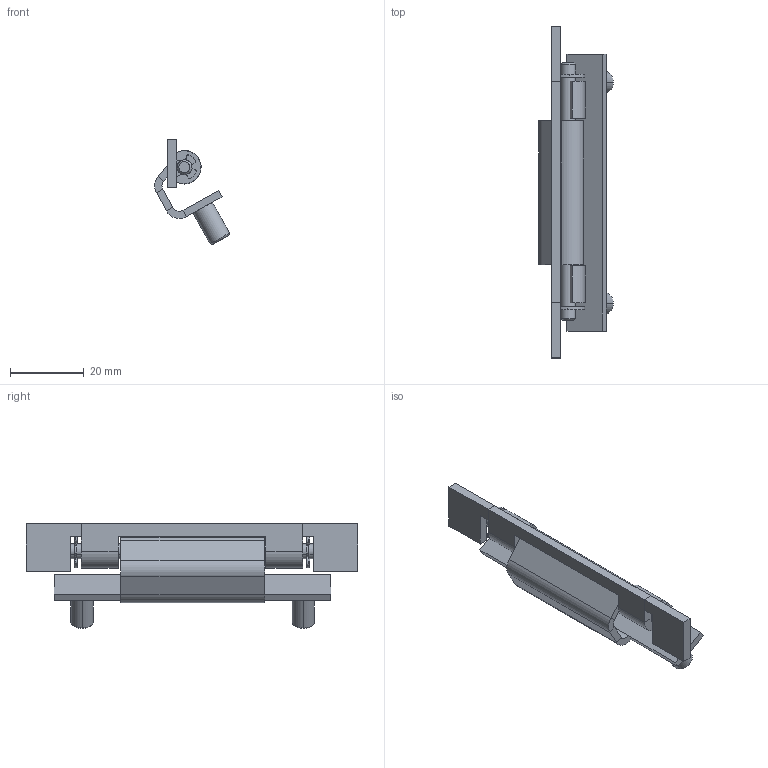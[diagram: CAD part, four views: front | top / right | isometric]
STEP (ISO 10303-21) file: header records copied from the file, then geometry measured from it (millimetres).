
FILE_DESCRIPTION (( 'STEP AP203' ), '1' );
FILE_NAME ('ST47.STEP', '2007-02-15T19:02:28', ( 'SlawekZ' ), ( 'RST' ), 'SwSTEP 2.0', 'SolidWorks 2004231', '' );
FILE_SCHEMA (( 'CONFIG_CONTROL_DESIGN' ));
Length unit declared in the file: millimetre
Products named in the file (6): Zabezpieczenie_Domyœlna; ZAWIAS 9618_Domyœlna; ZAWIAS NO 9618 STOPA_Domyœlna; ZAWIAS NO 9618 UCHO_Domyœlna; SWORZEN_Domyœlna; ST47
Assembly tree (6 placements, depth 3):
  ST47
    Zabezpieczenie_Domyœlna  x2
    ZAWIAS 9618_Domyœlna
      ZAWIAS NO 9618 UCHO_Domyœlna
      ZAWIAS NO 9618 STOPA_Domyœlna
      SWORZEN_Domyœlna
Bounding box: 20.29 x 90 x 28.42 mm (x, y, z)
Volume: 7848.8 mm3; surface area: 8741.6 mm2
Topology: 9 solids, 9 shells, 160 faces, 378 edges, 240 vertices
Faces by surface type: plane 88, bspline 36, cylinder 28, cone 8
Entity records: 4364 total; most frequent: CARTESIAN_POINT 984, ORIENTED_EDGE 576, DIRECTION 554, EDGE_CURVE 288, LINE 190, VECTOR 190, AXIS2_PLACEMENT_3D 182, VERTEX_POINT 180
